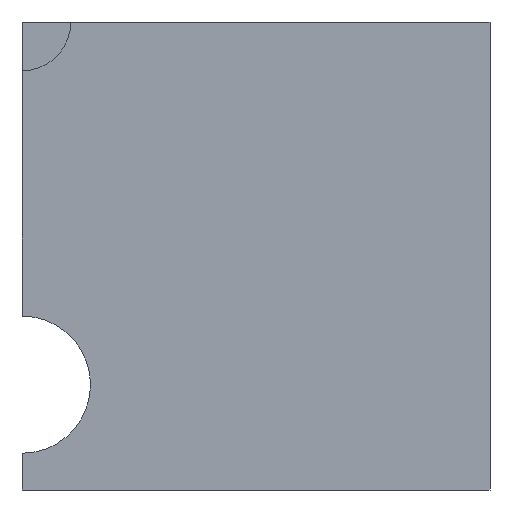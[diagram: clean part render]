
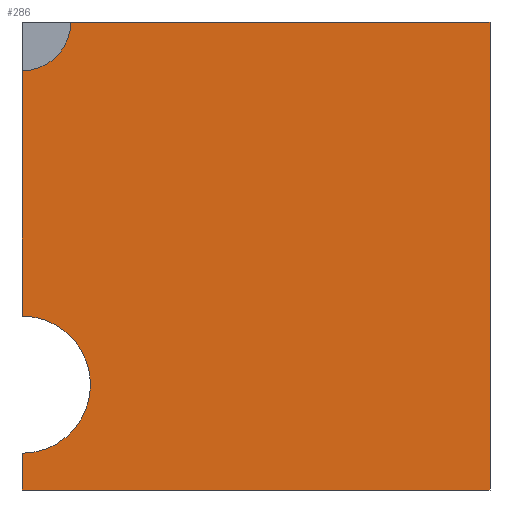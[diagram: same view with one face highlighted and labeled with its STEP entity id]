
A CAD part, left-side view. The second image highlights one B-rep face of the part: STEP entity #286.
In plain terms, the highlighted planar face has unit normal (-1, 0, 0).
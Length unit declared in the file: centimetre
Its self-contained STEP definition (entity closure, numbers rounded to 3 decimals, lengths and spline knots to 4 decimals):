
#34 = CARTESIAN_POINT ( 'NONE',  ( 0., 1000., 1000. ) ) ;
#36 = CARTESIAN_POINT ( 'NONE',  ( 0., 895.7355, 1000. ) ) ;
#40 = EDGE_CURVE ( 'NONE', #129, #861, #810, .T. ) ;
#42 = EDGE_CURVE ( 'NONE', #474, #54, #670, .T. ) ;
#49 = CARTESIAN_POINT ( 'NONE',  ( 0., 0., 1000. ) ) ;
#54 = VERTEX_POINT ( 'NONE', #591 ) ;
#82 = CARTESIAN_POINT ( 'NONE',  ( 0., 1000., 895.7355 ) ) ;
#106 = CARTESIAN_POINT ( 'NONE',  ( 0., 1000., 1000. ) ) ;
#109 = DIRECTION ( 'NONE',  ( 0., 0., 1. ) ) ;
#129 = VERTEX_POINT ( 'NONE', #82 ) ;
#133 = DIRECTION ( 'NONE',  ( 0., 0., 1. ) ) ;
#146 = VERTEX_POINT ( 'NONE', #723 ) ;
#163 = FACE_OUTER_BOUND ( 'NONE', #854, .T. ) ;
#229 = CARTESIAN_POINT ( 'NONE',  ( 0., 1000., 371.5942 ) ) ;
#232 = DIRECTION ( 'NONE',  ( 1., 0., 0. ) ) ;
#237 = CARTESIAN_POINT ( 'NONE',  ( 0., 1000., 1000. ) ) ;
#239 = DIRECTION ( 'NONE',  ( 0., -1., 0. ) ) ;
#249 = CARTESIAN_POINT ( 'NONE',  ( 0., 0., 1000. ) ) ;
#286 = ADVANCED_FACE ( 'NONE', ( #163 ), #454, .F. ) ;
#287 = EDGE_CURVE ( 'NONE', #146, #54, #384, .T. ) ;
#314 = AXIS2_PLACEMENT_3D ( 'NONE', #34, #232, #525 ) ;
#329 = AXIS2_PLACEMENT_3D ( 'NONE', #851, #423, #133 ) ;
#355 = ORIENTED_EDGE ( 'NONE', *, *, #42, .F. ) ;
#356 = CARTESIAN_POINT ( 'NONE',  ( 0., 1000., 1000. ) ) ;
#358 = VERTEX_POINT ( 'NONE', #488 ) ;
#380 = DIRECTION ( 'NONE',  ( 0., 0., -1. ) ) ;
#384 = LINE ( 'NONE', #521, #789 ) ;
#423 = DIRECTION ( 'NONE',  ( -1., 0., 0. ) ) ;
#447 = ORIENTED_EDGE ( 'NONE', *, *, #287, .T. ) ;
#454 = PLANE ( 'NONE',  #314 ) ;
#458 = CARTESIAN_POINT ( 'NONE',  ( 0., 1000., 1000. ) ) ;
#474 = VERTEX_POINT ( 'NONE', #249 ) ;
#477 = VECTOR ( 'NONE', #887, 100. ) ;
#481 = LINE ( 'NONE', #237, #716 ) ;
#486 = ORIENTED_EDGE ( 'NONE', *, *, #840, .F. ) ;
#488 = CARTESIAN_POINT ( 'NONE',  ( 0., 1000., 78.606 ) ) ;
#509 = AXIS2_PLACEMENT_3D ( 'NONE', #458, #737, #109 ) ;
#521 = CARTESIAN_POINT ( 'NONE',  ( 0., 1000., 0. ) ) ;
#525 = DIRECTION ( 'NONE',  ( 0., 0., -1. ) ) ;
#527 = EDGE_CURVE ( 'NONE', #565, #474, #481, .T. ) ;
#558 = ORIENTED_EDGE ( 'NONE', *, *, #612, .T. ) ;
#565 = VERTEX_POINT ( 'NONE', #36 ) ;
#591 = CARTESIAN_POINT ( 'NONE',  ( 0., 0., 0. ) ) ;
#605 = EDGE_CURVE ( 'NONE', #358, #861, #626, .T. ) ;
#612 = EDGE_CURVE ( 'NONE', #358, #146, #769, .T. ) ;
#616 = ORIENTED_EDGE ( 'NONE', *, *, #605, .F. ) ;
#626 = CIRCLE ( 'NONE', #329, 146.4941 ) ;
#639 = CIRCLE ( 'NONE', #509, 104.2645 ) ;
#646 = DIRECTION ( 'NONE',  ( 0., -1., 0. ) ) ;
#652 = ORIENTED_EDGE ( 'NONE', *, *, #527, .F. ) ;
#670 = LINE ( 'NONE', #49, #477 ) ;
#715 = VECTOR ( 'NONE', #380, 100. ) ;
#716 = VECTOR ( 'NONE', #239, 100. ) ;
#723 = CARTESIAN_POINT ( 'NONE',  ( 0., 1000., 0. ) ) ;
#735 = VECTOR ( 'NONE', #764, 100. ) ;
#737 = DIRECTION ( 'NONE',  ( -1., 0., 0. ) ) ;
#764 = DIRECTION ( 'NONE',  ( 0., 0., -1. ) ) ;
#769 = LINE ( 'NONE', #356, #735 ) ;
#789 = VECTOR ( 'NONE', #646, 100. ) ;
#798 = ORIENTED_EDGE ( 'NONE', *, *, #40, .T. ) ;
#810 = LINE ( 'NONE', #106, #715 ) ;
#840 = EDGE_CURVE ( 'NONE', #129, #565, #639, .T. ) ;
#851 = CARTESIAN_POINT ( 'NONE',  ( 0., 1000., 225.1001 ) ) ;
#854 = EDGE_LOOP ( 'NONE', ( #652, #486, #798, #616, #558, #447, #355 ) ) ;
#861 = VERTEX_POINT ( 'NONE', #229 ) ;
#887 = DIRECTION ( 'NONE',  ( 0., 0., -1. ) ) ;
